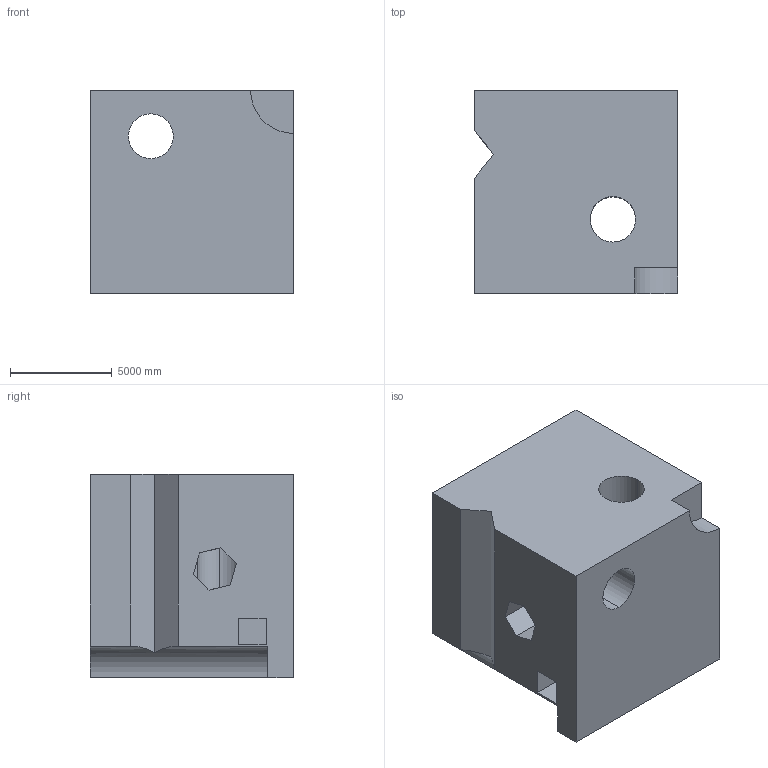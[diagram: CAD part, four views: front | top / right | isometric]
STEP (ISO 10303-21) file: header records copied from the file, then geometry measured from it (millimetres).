
FILE_DESCRIPTION (( 'STEP AP203' ), '1' );
FILE_NAME ('1772.STEP', '2022-08-25T15:43:37', ( 'user' ), ( '' ), 'SwSTEP 2.0', 'SolidWorks 2021', '' );
FILE_SCHEMA (( 'CONFIG_CONTROL_DESIGN' ));
Length unit declared in the file: centimetre
Products named in the file (1): 1772
Bounding box: 10000 x 10000 x 10000 mm (x, y, z)
Volume: 854481478639.5 mm3; surface area: 793369485.2 mm2
Topology: 1 solids, 1 shells, 32 faces, 93 edges, 62 vertices
Faces by surface type: plane 25, cylinder 7
Entity records: 1146 total; most frequent: CARTESIAN_POINT 218, ORIENTED_EDGE 186, DIRECTION 165, EDGE_CURVE 93, VECTOR 67, LINE 67, VERTEX_POINT 62, AXIS2_PLACEMENT_3D 49
